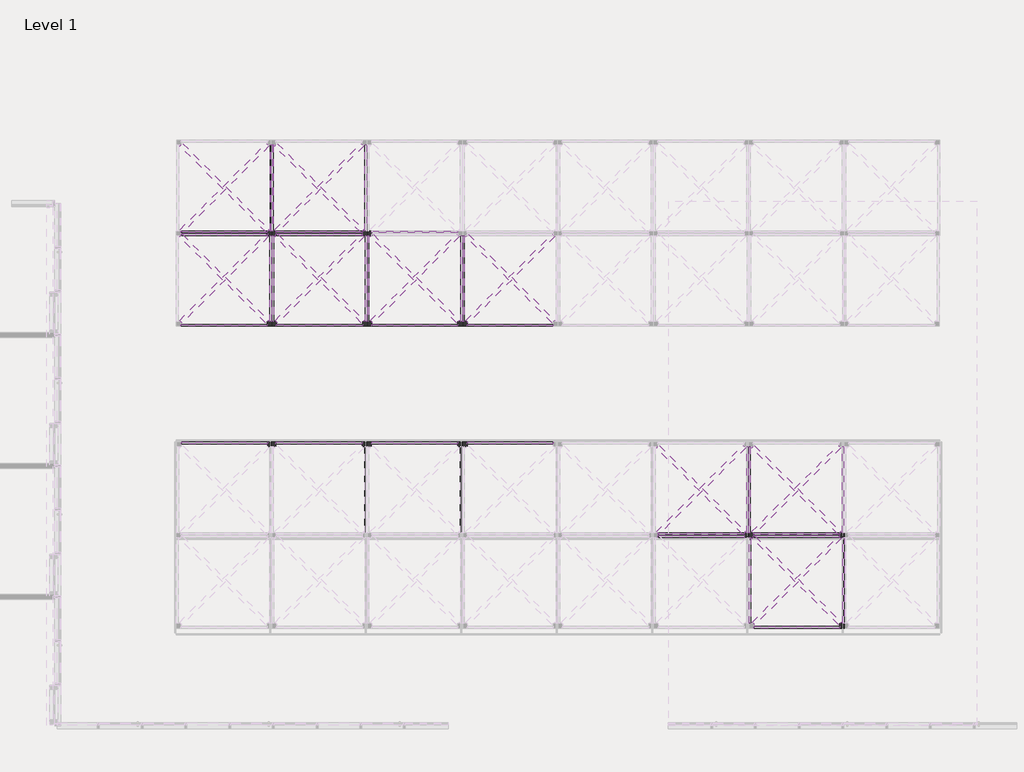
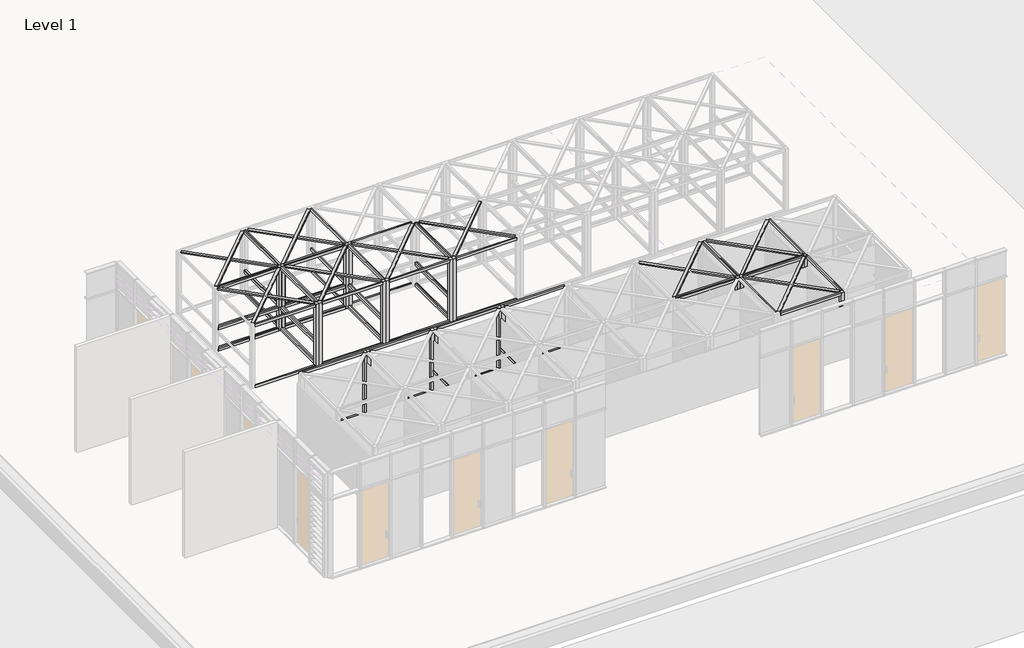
# One storey, part 19 of 32: 105 beams, 27 columns.
"""IFC4 building model written with IfcOpenShell, lengths in millimetres."""

from ifc_helpers import new_model, si_unit, origin, place, context, project, spatial, transform, mapped, element, save
from components import timber_gauged_nz_100_x_50_a05adcf6, timber_gauged_nz_100_x_50_e4b9d06e, timber_gauged_nz_100_x_50_66b63d81, timber_gauged_nz_100_x_50_718b6390, timber_gauged_nz_100_x_50_7774ab14, timber_gauged_nz_100_x_50_be6c7ca1, timber_gauged_nz_100_x_50_6be5a70a, timber_gauged_nz_100_x_50_7b7bee40, timber_gauged_nz_100_x_50_flat_212af973, timber_gauged_nz_100_x_50_flat_8016973c, column_timber_m_114x114_3b5997c2

model = new_model("IFC4")

# Units and contexts
model_context = context("Model", 3, world=origin())
ifc_project = project(units=[si_unit("LENGTHUNIT", "METRE", prefix="MILLI")], contexts=[model_context])

# Site, building, storey
site = spatial("IfcSite", under=ifc_project)
building = spatial("IfcBuilding", under=site)
storey = spatial("IfcBuildingStorey", under=building, Name="Level 1", Elevation=2800.0)

# Beams
placement = place(None, origin())
timber_gauged_nz_100_x_50_shape = timber_gauged_nz_100_x_50_a05adcf6(model_context)
element("IfcBeam", 1, ObjectType="Timber Gauged (NZ) : 100 x 50", at=placement, inside=storey, context=model_context, shape_type="MappedRepresentation", body=[
    mapped(timber_gauged_nz_100_x_50_shape, transform((-67595.3056755, -25111.9011548, 2847.0), x_axis=(1.0, 0.0, 0.0), y_axis=(0.0, 1.0, 0.0), z_axis=(0.0, 0.0, 1.0))),
])
element("IfcBeam", 2, ObjectType="Timber Gauged (NZ) : 100 x 50", at=placement, inside=storey, context=model_context, shape_type="MappedRepresentation", body=[
    mapped(timber_gauged_nz_100_x_50_shape, transform((-65190.9556755, -25111.9011548, 2847.0), x_axis=(1.0, 0.0, 0.0), y_axis=(0.0, 1.0, 0.0), z_axis=(0.0, 0.0, 1.0))),
])
element("IfcBeam", 3, ObjectType="Timber Gauged (NZ) : 100 x 50", at=placement, inside=storey, context=model_context, shape_type="MappedRepresentation", body=[
    mapped(timber_gauged_nz_100_x_50_shape, transform((-65204.0056755, -25182.1175809, 2847.0), x_axis=(-1.0, 0.0, 0.0), y_axis=(0.0, -1.0, 0.0), z_axis=(0.0, 0.0, 1.0))),
])
element("IfcBeam", 4, ObjectType="Timber Gauged (NZ) : 100 x 50", at=placement, inside=storey, context=model_context, shape_type="MappedRepresentation", body=[
    mapped(timber_gauged_nz_100_x_50_shape, transform((-67599.6556755, -25182.1175809, 2847.0), x_axis=(-1.0, 0.0, 0.0), y_axis=(0.0, -1.0, 0.0), z_axis=(0.0, 0.0, 1.0))),
])
element("IfcBeam", 5, ObjectType="Timber Gauged (NZ) : 100 x 50", at=placement, inside=storey, context=model_context, shape_type="MappedRepresentation", body=[
    mapped(timber_gauged_nz_100_x_50_shape, transform((-79599.6556755, -17511.9011548, 2847.0), x_axis=(1.0, 0.0, 0.0), y_axis=(0.0, 1.0, 0.0), z_axis=(0.0, 0.0, 1.0))),
])
element("IfcBeam", 6, ObjectType="Timber Gauged (NZ) : 100 x 50", at=placement, inside=storey, context=model_context, shape_type="MappedRepresentation", body=[
    mapped(timber_gauged_nz_100_x_50_shape, transform((-77195.3056755, -17511.9011548, 2847.0), x_axis=(1.0, 0.0, 0.0), y_axis=(0.0, 1.0, 0.0), z_axis=(0.0, 0.0, 1.0))),
])
element("IfcBeam", 7, ObjectType="Timber Gauged (NZ) : 100 x 50", at=placement, inside=storey, context=model_context, shape_type="MappedRepresentation", body=[
    mapped(timber_gauged_nz_100_x_50_shape, transform((-74799.6556755, -17511.9011548, 2847.0), x_axis=(1.0, 0.0, 0.0), y_axis=(0.0, 1.0, 0.0), z_axis=(0.0, 0.0, 1.0))),
])
element("IfcBeam", 8, ObjectType="Timber Gauged (NZ) : 100 x 50", at=placement, inside=storey, context=model_context, shape_type="MappedRepresentation", body=[
    mapped(timber_gauged_nz_100_x_50_shape, transform((-77208.3556755, -17582.1175809, 2847.0), x_axis=(-1.0, 0.0, 0.0), y_axis=(0.0, -1.0, 0.0), z_axis=(0.0, 0.0, 1.0))),
])
element("IfcBeam", 9, ObjectType="Timber Gauged (NZ) : 100 x 50", at=placement, inside=storey, context=model_context, shape_type="MappedRepresentation", body=[
    mapped(timber_gauged_nz_100_x_50_shape, transform((-79588.3556755, -17582.1175809, 2847.0), x_axis=(-1.0, 0.0, 0.0), y_axis=(0.0, -1.0, 0.0), z_axis=(0.0, 0.0, 1.0))),
])
timber_gauged_nz_100_x_50_2_shape = timber_gauged_nz_100_x_50_e4b9d06e(model_context)
element("IfcBeam", 10, ObjectType="Timber Gauged (NZ) : 100 x 50", at=placement, inside=storey, context=model_context, shape_type="MappedRepresentation", body=[
    mapped(timber_gauged_nz_100_x_50_2_shape, transform((-65204.1306755, -27464.9011548, 2847.0), x_axis=(1.0, 0.0, 0.0), y_axis=(0.0, 1.0, 0.0), z_axis=(0.0, 0.0, 1.0))),
])
element("IfcBeam", 11, ObjectType="Timber Gauged (NZ) : 100 x 50", at=placement, inside=storey, context=model_context, shape_type="MappedRepresentation", body=[
    mapped(timber_gauged_nz_100_x_50_2_shape, transform((-72386.4806755, -22829.1175809, 2847.0), x_axis=(-1.0, 0.0, 0.0), y_axis=(0.0, -1.0, 0.0), z_axis=(0.0, 0.0, 1.0))),
])
element("IfcBeam", 12, ObjectType="Timber Gauged (NZ) : 100 x 50", at=placement, inside=storey, context=model_context, shape_type="MappedRepresentation", body=[
    mapped(timber_gauged_nz_100_x_50_2_shape, transform((-74790.8306755, -22829.1175809, 2847.0), x_axis=(-1.0, 0.0, 0.0), y_axis=(0.0, -1.0, 0.0), z_axis=(0.0, 0.0, 1.0))),
])
element("IfcBeam", 13, ObjectType="Timber Gauged (NZ) : 100 x 50", at=placement, inside=storey, context=model_context, shape_type="MappedRepresentation", body=[
    mapped(timber_gauged_nz_100_x_50_2_shape, transform((-77195.1806755, -22829.1175809, 2847.0), x_axis=(-1.0, 0.0, 0.0), y_axis=(0.0, -1.0, 0.0), z_axis=(0.0, 0.0, 1.0))),
])
element("IfcBeam", 14, ObjectType="Timber Gauged (NZ) : 100 x 50", at=placement, inside=storey, context=model_context, shape_type="MappedRepresentation", body=[
    mapped(timber_gauged_nz_100_x_50_2_shape, transform((-79575.1806755, -22829.1175809, 2847.0), x_axis=(-1.0, 0.0, 0.0), y_axis=(0.0, -1.0, 0.0), z_axis=(0.0, 0.0, 1.0))),
])
element("IfcBeam", 15, ObjectType="Timber Gauged (NZ) : 100 x 50", at=placement, inside=storey, context=model_context, shape_type="MappedRepresentation", body=[
    mapped(timber_gauged_nz_100_x_50_2_shape, transform((-79612.8306755, -19864.9011548, 2847.0), x_axis=(1.0, 0.0, 0.0), y_axis=(0.0, 1.0, 0.0), z_axis=(0.0, 0.0, 1.0))),
])
element("IfcBeam", 16, ObjectType="Timber Gauged (NZ) : 100 x 50", at=placement, inside=storey, context=model_context, shape_type="MappedRepresentation", body=[
    mapped(timber_gauged_nz_100_x_50_2_shape, transform((-77208.4806755, -19864.9011548, 2847.0), x_axis=(1.0, 0.0, 0.0), y_axis=(0.0, 1.0, 0.0), z_axis=(0.0, 0.0, 1.0))),
])
element("IfcBeam", 17, ObjectType="Timber Gauged (NZ) : 100 x 50", at=placement, inside=storey, context=model_context, shape_type="MappedRepresentation", body=[
    mapped(timber_gauged_nz_100_x_50_2_shape, transform((-74812.8306755, -19864.9011548, 2847.0), x_axis=(1.0, 0.0, 0.0), y_axis=(0.0, 1.0, 0.0), z_axis=(0.0, 0.0, 1.0))),
])
element("IfcBeam", 18, ObjectType="Timber Gauged (NZ) : 100 x 50", at=placement, inside=storey, context=model_context, shape_type="MappedRepresentation", body=[
    mapped(timber_gauged_nz_100_x_50_2_shape, transform((-72412.8306755, -19864.9011548, 2847.0), x_axis=(1.0, 0.0, 0.0), y_axis=(0.0, 1.0, 0.0), z_axis=(0.0, 0.0, 1.0))),
])
timber_gauged_nz_100_x_50_3_shape = timber_gauged_nz_100_x_50_66b63d81(model_context)
element("IfcBeam", 19, ObjectType="Timber Gauged (NZ) : 100 x 50", at=placement, inside=storey, context=model_context, shape_type="MappedRepresentation", body=[
    mapped(timber_gauged_nz_100_x_50_3_shape, transform((-66367.4556755, -26288.4011548, 2847.0), x_axis=(0.0, -1.0, 0.0), y_axis=(1.0, 0.0, 0.0), z_axis=(0.0, 0.0, 1.0))),
])
element("IfcBeam", 20, ObjectType="Timber Gauged (NZ) : 100 x 50", at=placement, inside=storey, context=model_context, shape_type="MappedRepresentation", body=[
    mapped(timber_gauged_nz_100_x_50_3_shape, transform((-64027.5056755, -24005.6175809, 2847.0), x_axis=(0.0, 1.0, 0.0), y_axis=(-1.0, 0.0, 0.0), z_axis=(0.0, 0.0, 1.0))),
])
element("IfcBeam", 21, ObjectType="Timber Gauged (NZ) : 100 x 50", at=placement, inside=storey, context=model_context, shape_type="MappedRepresentation", body=[
    mapped(timber_gauged_nz_100_x_50_3_shape, transform((-66423.1556755, -24005.6175809, 2847.0), x_axis=(0.0, 1.0, 0.0), y_axis=(-1.0, 0.0, 0.0), z_axis=(0.0, 0.0, 1.0))),
])
element("IfcBeam", 22, ObjectType="Timber Gauged (NZ) : 100 x 50", at=placement, inside=storey, context=model_context, shape_type="MappedRepresentation", body=[
    mapped(timber_gauged_nz_100_x_50_3_shape, transform((-78371.8056755, -18688.4011548, 2847.0), x_axis=(0.0, -1.0, 0.0), y_axis=(1.0, 0.0, 0.0), z_axis=(0.0, 0.0, 1.0))),
])
element("IfcBeam", 23, ObjectType="Timber Gauged (NZ) : 100 x 50", at=placement, inside=storey, context=model_context, shape_type="MappedRepresentation", body=[
    mapped(timber_gauged_nz_100_x_50_3_shape, transform((-75976.1556755, -18688.4011548, 2847.0), x_axis=(0.0, -1.0, 0.0), y_axis=(1.0, 0.0, 0.0), z_axis=(0.0, 0.0, 1.0))),
])
element("IfcBeam", 24, ObjectType="Timber Gauged (NZ) : 100 x 50", at=placement, inside=storey, context=model_context, shape_type="MappedRepresentation", body=[
    mapped(timber_gauged_nz_100_x_50_3_shape, transform((-73576.1556755, -18688.4011548, 2847.0), x_axis=(0.0, -1.0, 0.0), y_axis=(1.0, 0.0, 0.0), z_axis=(0.0, 0.0, 1.0))),
])
element("IfcBeam", 25, ObjectType="Timber Gauged (NZ) : 100 x 50", at=placement, inside=storey, context=model_context, shape_type="MappedRepresentation", body=[
    mapped(timber_gauged_nz_100_x_50_3_shape, transform((-76031.8556755, -16405.6175809, 2847.0), x_axis=(0.0, 1.0, 0.0), y_axis=(-1.0, 0.0, 0.0), z_axis=(0.0, 0.0, 1.0))),
])
element("IfcBeam", 26, ObjectType="Timber Gauged (NZ) : 100 x 50", at=placement, inside=storey, context=model_context, shape_type="MappedRepresentation", body=[
    mapped(timber_gauged_nz_100_x_50_3_shape, transform((-78411.8556755, -16405.6175809, 2847.0), x_axis=(0.0, 1.0, 0.0), y_axis=(-1.0, 0.0, 0.0), z_axis=(0.0, 0.0, 1.0))),
])
element("IfcBeam", 27, ObjectType="Timber Gauged (NZ) : 100 x 50", at=placement, inside=storey, context=model_context, shape_type="MappedRepresentation", body=[
    mapped(timber_gauged_nz_100_x_50_3_shape, transform((-64014.4556755, -26288.4011548, 2847.0), x_axis=(0.0, -1.0, 0.0), y_axis=(1.0, 0.0, 0.0), z_axis=(0.0, 0.0, 1.0))),
])
element("IfcBeam", 28, ObjectType="Timber Gauged (NZ) : 100 x 50", at=placement, inside=storey, context=model_context, shape_type="MappedRepresentation", body=[
    mapped(timber_gauged_nz_100_x_50_3_shape, transform((-66380.5056755, -24005.6175809, 2847.0), x_axis=(0.0, 1.0, 0.0), y_axis=(-1.0, 0.0, 0.0), z_axis=(0.0, 0.0, 1.0))),
])
element("IfcBeam", 29, ObjectType="Timber Gauged (NZ) : 100 x 50", at=placement, inside=storey, context=model_context, shape_type="MappedRepresentation", body=[
    mapped(timber_gauged_nz_100_x_50_3_shape, transform((-78423.1556755, -18688.4011548, 2847.0), x_axis=(0.0, -1.0, 0.0), y_axis=(1.0, 0.0, 0.0), z_axis=(0.0, 0.0, 1.0))),
])
element("IfcBeam", 30, ObjectType="Timber Gauged (NZ) : 100 x 50", at=placement, inside=storey, context=model_context, shape_type="MappedRepresentation", body=[
    mapped(timber_gauged_nz_100_x_50_3_shape, transform((-76018.8056755, -18688.4011548, 2847.0), x_axis=(0.0, -1.0, 0.0), y_axis=(1.0, 0.0, 0.0), z_axis=(0.0, 0.0, 1.0))),
])
element("IfcBeam", 31, ObjectType="Timber Gauged (NZ) : 100 x 50", at=placement, inside=storey, context=model_context, shape_type="MappedRepresentation", body=[
    mapped(timber_gauged_nz_100_x_50_3_shape, transform((-73623.1556755, -18688.4011548, 2847.0), x_axis=(0.0, -1.0, 0.0), y_axis=(1.0, 0.0, 0.0), z_axis=(0.0, 0.0, 1.0))),
])
element("IfcBeam", 32, ObjectType="Timber Gauged (NZ) : 100 x 50", at=placement, inside=storey, context=model_context, shape_type="MappedRepresentation", body=[
    mapped(timber_gauged_nz_100_x_50_3_shape, transform((-78384.8556755, -16405.6175809, 2847.0), x_axis=(0.0, 1.0, 0.0), y_axis=(-1.0, 0.0, 0.0), z_axis=(0.0, 0.0, 1.0))),
])
timber_gauged_nz_100_x_50_4_shape = timber_gauged_nz_100_x_50_718b6390(model_context)
element("IfcBeam", 33, ObjectType="Timber Gauged (NZ) : 100 x 50", at=placement, inside=storey, context=model_context, shape_type="MappedRepresentation", body=[
    mapped(timber_gauged_nz_100_x_50_4_shape, transform((-67603.1556755, -25111.9011548, 5153.0), x_axis=(1.0, 0.0, 0.0), y_axis=(0.0, 1.0, 0.0), z_axis=(0.0, 0.0, 1.0))),
])
element("IfcBeam", 34, ObjectType="Timber Gauged (NZ) : 100 x 50", at=placement, inside=storey, context=model_context, shape_type="MappedRepresentation", body=[
    mapped(timber_gauged_nz_100_x_50_4_shape, transform((-67603.1556755, -25111.9011548, 3653.0), x_axis=(1.0, 0.0, 0.0), y_axis=(0.0, 1.0, 0.0), z_axis=(0.0, 0.0, 1.0))),
])
element("IfcBeam", 35, ObjectType="Timber Gauged (NZ) : 100 x 50", at=placement, inside=storey, context=model_context, shape_type="MappedRepresentation", body=[
    mapped(timber_gauged_nz_100_x_50_4_shape, transform((-65198.8056755, -25111.9011548, 5153.0), x_axis=(1.0, 0.0, 0.0), y_axis=(0.0, 1.0, 0.0), z_axis=(0.0, 0.0, 1.0))),
])
element("IfcBeam", 36, ObjectType="Timber Gauged (NZ) : 100 x 50", at=placement, inside=storey, context=model_context, shape_type="MappedRepresentation", body=[
    mapped(timber_gauged_nz_100_x_50_4_shape, transform((-65198.8056755, -25111.9011548, 3653.0), x_axis=(1.0, 0.0, 0.0), y_axis=(0.0, 1.0, 0.0), z_axis=(0.0, 0.0, 1.0))),
])
element("IfcBeam", 37, ObjectType="Timber Gauged (NZ) : 100 x 50", at=placement, inside=storey, context=model_context, shape_type="MappedRepresentation", body=[
    mapped(timber_gauged_nz_100_x_50_4_shape, transform((-65196.1556755, -25182.1175809, 5153.0), x_axis=(-1.0, 0.0, 0.0), y_axis=(0.0, -1.0, 0.0), z_axis=(0.0, 0.0, 1.0))),
])
element("IfcBeam", 38, ObjectType="Timber Gauged (NZ) : 100 x 50", at=placement, inside=storey, context=model_context, shape_type="MappedRepresentation", body=[
    mapped(timber_gauged_nz_100_x_50_4_shape, transform((-65196.1556755, -25182.1175809, 3653.0), x_axis=(-1.0, 0.0, 0.0), y_axis=(0.0, -1.0, 0.0), z_axis=(0.0, 0.0, 1.0))),
])
element("IfcBeam", 39, ObjectType="Timber Gauged (NZ) : 100 x 50", at=placement, inside=storey, context=model_context, shape_type="MappedRepresentation", body=[
    mapped(timber_gauged_nz_100_x_50_4_shape, transform((-67591.8056755, -25182.1175809, 5153.0), x_axis=(-1.0, 0.0, 0.0), y_axis=(0.0, -1.0, 0.0), z_axis=(0.0, 0.0, 1.0))),
])
element("IfcBeam", 40, ObjectType="Timber Gauged (NZ) : 100 x 50", at=placement, inside=storey, context=model_context, shape_type="MappedRepresentation", body=[
    mapped(timber_gauged_nz_100_x_50_4_shape, transform((-67591.8056755, -25182.1175809, 3653.0), x_axis=(-1.0, 0.0, 0.0), y_axis=(0.0, -1.0, 0.0), z_axis=(0.0, 0.0, 1.0))),
])
element("IfcBeam", 41, ObjectType="Timber Gauged (NZ) : 100 x 50", at=placement, inside=storey, context=model_context, shape_type="MappedRepresentation", body=[
    mapped(timber_gauged_nz_100_x_50_4_shape, transform((-79607.5056755, -17511.9011548, 5153.0), x_axis=(1.0, 0.0, 0.0), y_axis=(0.0, 1.0, 0.0), z_axis=(0.0, 0.0, 1.0))),
])
element("IfcBeam", 42, ObjectType="Timber Gauged (NZ) : 100 x 50", at=placement, inside=storey, context=model_context, shape_type="MappedRepresentation", body=[
    mapped(timber_gauged_nz_100_x_50_4_shape, transform((-79607.5056755, -17511.9011548, 3653.0), x_axis=(1.0, 0.0, 0.0), y_axis=(0.0, 1.0, 0.0), z_axis=(0.0, 0.0, 1.0))),
])
element("IfcBeam", 43, ObjectType="Timber Gauged (NZ) : 100 x 50", at=placement, inside=storey, context=model_context, shape_type="MappedRepresentation", body=[
    mapped(timber_gauged_nz_100_x_50_4_shape, transform((-77203.1556755, -17511.9011548, 5153.0), x_axis=(1.0, 0.0, 0.0), y_axis=(0.0, 1.0, 0.0), z_axis=(0.0, 0.0, 1.0))),
])
element("IfcBeam", 44, ObjectType="Timber Gauged (NZ) : 100 x 50", at=placement, inside=storey, context=model_context, shape_type="MappedRepresentation", body=[
    mapped(timber_gauged_nz_100_x_50_4_shape, transform((-77203.1556755, -17511.9011548, 3653.0), x_axis=(1.0, 0.0, 0.0), y_axis=(0.0, 1.0, 0.0), z_axis=(0.0, 0.0, 1.0))),
])
element("IfcBeam", 45, ObjectType="Timber Gauged (NZ) : 100 x 50", at=placement, inside=storey, context=model_context, shape_type="MappedRepresentation", body=[
    mapped(timber_gauged_nz_100_x_50_4_shape, transform((-74807.5056755, -17511.9011548, 5153.0), x_axis=(1.0, 0.0, 0.0), y_axis=(0.0, 1.0, 0.0), z_axis=(0.0, 0.0, 1.0))),
])
element("IfcBeam", 46, ObjectType="Timber Gauged (NZ) : 100 x 50", at=placement, inside=storey, context=model_context, shape_type="MappedRepresentation", body=[
    mapped(timber_gauged_nz_100_x_50_4_shape, transform((-77200.5056755, -17582.1175809, 5153.0), x_axis=(-1.0, 0.0, 0.0), y_axis=(0.0, -1.0, 0.0), z_axis=(0.0, 0.0, 1.0))),
])
element("IfcBeam", 47, ObjectType="Timber Gauged (NZ) : 100 x 50", at=placement, inside=storey, context=model_context, shape_type="MappedRepresentation", body=[
    mapped(timber_gauged_nz_100_x_50_4_shape, transform((-77200.5056755, -17582.1175809, 3653.0), x_axis=(-1.0, 0.0, 0.0), y_axis=(0.0, -1.0, 0.0), z_axis=(0.0, 0.0, 1.0))),
])
element("IfcBeam", 48, ObjectType="Timber Gauged (NZ) : 100 x 50", at=placement, inside=storey, context=model_context, shape_type="MappedRepresentation", body=[
    mapped(timber_gauged_nz_100_x_50_4_shape, transform((-79580.5056755, -17582.1175809, 5153.0), x_axis=(-1.0, 0.0, 0.0), y_axis=(0.0, -1.0, 0.0), z_axis=(0.0, 0.0, 1.0))),
])
element("IfcBeam", 49, ObjectType="Timber Gauged (NZ) : 100 x 50", at=placement, inside=storey, context=model_context, shape_type="MappedRepresentation", body=[
    mapped(timber_gauged_nz_100_x_50_4_shape, transform((-79580.5056755, -17582.1175809, 3653.0), x_axis=(-1.0, 0.0, 0.0), y_axis=(0.0, -1.0, 0.0), z_axis=(0.0, 0.0, 1.0))),
])
timber_gauged_nz_100_x_50_5_shape = timber_gauged_nz_100_x_50_7774ab14(model_context)
element("IfcBeam", 50, ObjectType="Timber Gauged (NZ) : 100 x 50", at=placement, inside=storey, context=model_context, shape_type="MappedRepresentation", body=[
    mapped(timber_gauged_nz_100_x_50_5_shape, transform((-65186.3056755, -27464.9011548, 5153.0), x_axis=(1.0, 0.0, 0.0), y_axis=(0.0, 1.0, 0.0), z_axis=(0.0, 0.0, 1.0))),
])
element("IfcBeam", 51, ObjectType="Timber Gauged (NZ) : 100 x 50", at=placement, inside=storey, context=model_context, shape_type="MappedRepresentation", body=[
    mapped(timber_gauged_nz_100_x_50_5_shape, transform((-72404.3056755, -22829.1175809, 5153.0), x_axis=(-1.0, 0.0, 0.0), y_axis=(0.0, -1.0, 0.0), z_axis=(0.0, 0.0, 1.0))),
])
element("IfcBeam", 52, ObjectType="Timber Gauged (NZ) : 100 x 50", at=placement, inside=storey, context=model_context, shape_type="MappedRepresentation", body=[
    mapped(timber_gauged_nz_100_x_50_5_shape, transform((-74808.6556755, -22829.1175809, 5153.0), x_axis=(-1.0, 0.0, 0.0), y_axis=(0.0, -1.0, 0.0), z_axis=(0.0, 0.0, 1.0))),
])
element("IfcBeam", 53, ObjectType="Timber Gauged (NZ) : 100 x 50", at=placement, inside=storey, context=model_context, shape_type="MappedRepresentation", body=[
    mapped(timber_gauged_nz_100_x_50_5_shape, transform((-77213.0056755, -22829.1175809, 5153.0), x_axis=(-1.0, 0.0, 0.0), y_axis=(0.0, -1.0, 0.0), z_axis=(0.0, 0.0, 1.0))),
])
element("IfcBeam", 54, ObjectType="Timber Gauged (NZ) : 100 x 50", at=placement, inside=storey, context=model_context, shape_type="MappedRepresentation", body=[
    mapped(timber_gauged_nz_100_x_50_5_shape, transform((-79593.0056755, -22829.1175809, 5153.0), x_axis=(-1.0, 0.0, 0.0), y_axis=(0.0, -1.0, 0.0), z_axis=(0.0, 0.0, 1.0))),
])
element("IfcBeam", 55, ObjectType="Timber Gauged (NZ) : 100 x 50", at=placement, inside=storey, context=model_context, shape_type="MappedRepresentation", body=[
    mapped(timber_gauged_nz_100_x_50_5_shape, transform((-79595.0056755, -19864.9011548, 5153.0), x_axis=(1.0, 0.0, 0.0), y_axis=(0.0, 1.0, 0.0), z_axis=(0.0, 0.0, 1.0))),
])
element("IfcBeam", 56, ObjectType="Timber Gauged (NZ) : 100 x 50", at=placement, inside=storey, context=model_context, shape_type="MappedRepresentation", body=[
    mapped(timber_gauged_nz_100_x_50_5_shape, transform((-77190.6556755, -19864.9011548, 5153.0), x_axis=(1.0, 0.0, 0.0), y_axis=(0.0, 1.0, 0.0), z_axis=(0.0, 0.0, 1.0))),
])
element("IfcBeam", 57, ObjectType="Timber Gauged (NZ) : 100 x 50", at=placement, inside=storey, context=model_context, shape_type="MappedRepresentation", body=[
    mapped(timber_gauged_nz_100_x_50_5_shape, transform((-74795.0056755, -19864.9011548, 5153.0), x_axis=(1.0, 0.0, 0.0), y_axis=(0.0, 1.0, 0.0), z_axis=(0.0, 0.0, 1.0))),
])
element("IfcBeam", 58, ObjectType="Timber Gauged (NZ) : 100 x 50", at=placement, inside=storey, context=model_context, shape_type="MappedRepresentation", body=[
    mapped(timber_gauged_nz_100_x_50_5_shape, transform((-72395.0056755, -19864.9011548, 5153.0), x_axis=(1.0, 0.0, 0.0), y_axis=(0.0, 1.0, 0.0), z_axis=(0.0, 0.0, 1.0))),
])
timber_gauged_nz_100_x_50_6_shape = timber_gauged_nz_100_x_50_be6c7ca1(model_context)
element("IfcBeam", 59, ObjectType="Timber Gauged (NZ) : 100 x 50", at=placement, inside=storey, context=model_context, shape_type="MappedRepresentation", body=[
    mapped(timber_gauged_nz_100_x_50_6_shape, transform((-66367.4556755, -26219.9011548, 5153.0), x_axis=(0.0, -1.0, 0.0), y_axis=(1.0, 0.0, 0.0), z_axis=(0.0, 0.0, 1.0))),
])
element("IfcBeam", 60, ObjectType="Timber Gauged (NZ) : 100 x 50", at=placement, inside=storey, context=model_context, shape_type="MappedRepresentation", body=[
    mapped(timber_gauged_nz_100_x_50_6_shape, transform((-64027.5056755, -24074.1175809, 5153.0), x_axis=(0.0, 1.0, 0.0), y_axis=(-1.0, 0.0, 0.0), z_axis=(0.0, 0.0, 1.0))),
])
element("IfcBeam", 61, ObjectType="Timber Gauged (NZ) : 100 x 50", at=placement, inside=storey, context=model_context, shape_type="MappedRepresentation", body=[
    mapped(timber_gauged_nz_100_x_50_6_shape, transform((-66423.1556755, -24074.1175809, 5153.0), x_axis=(0.0, 1.0, 0.0), y_axis=(-1.0, 0.0, 0.0), z_axis=(0.0, 0.0, 1.0))),
])
element("IfcBeam", 62, ObjectType="Timber Gauged (NZ) : 100 x 50", at=placement, inside=storey, context=model_context, shape_type="MappedRepresentation", body=[
    mapped(timber_gauged_nz_100_x_50_6_shape, transform((-78371.8056755, -18619.9011548, 5153.0), x_axis=(0.0, -1.0, 0.0), y_axis=(1.0, 0.0, 0.0), z_axis=(0.0, 0.0, 1.0))),
])
element("IfcBeam", 63, ObjectType="Timber Gauged (NZ) : 100 x 50", at=placement, inside=storey, context=model_context, shape_type="MappedRepresentation", body=[
    mapped(timber_gauged_nz_100_x_50_6_shape, transform((-75976.1556755, -18619.9011548, 5153.0), x_axis=(0.0, -1.0, 0.0), y_axis=(1.0, 0.0, 0.0), z_axis=(0.0, 0.0, 1.0))),
])
element("IfcBeam", 64, ObjectType="Timber Gauged (NZ) : 100 x 50", at=placement, inside=storey, context=model_context, shape_type="MappedRepresentation", body=[
    mapped(timber_gauged_nz_100_x_50_6_shape, transform((-73576.1556755, -18619.9011548, 5153.0), x_axis=(0.0, -1.0, 0.0), y_axis=(1.0, 0.0, 0.0), z_axis=(0.0, 0.0, 1.0))),
])
element("IfcBeam", 65, ObjectType="Timber Gauged (NZ) : 100 x 50", at=placement, inside=storey, context=model_context, shape_type="MappedRepresentation", body=[
    mapped(timber_gauged_nz_100_x_50_6_shape, transform((-76031.8556755, -16474.1175809, 5153.0), x_axis=(0.0, 1.0, 0.0), y_axis=(-1.0, 0.0, 0.0), z_axis=(0.0, 0.0, 1.0))),
])
element("IfcBeam", 66, ObjectType="Timber Gauged (NZ) : 100 x 50", at=placement, inside=storey, context=model_context, shape_type="MappedRepresentation", body=[
    mapped(timber_gauged_nz_100_x_50_6_shape, transform((-78411.8556755, -16474.1175809, 5153.0), x_axis=(0.0, 1.0, 0.0), y_axis=(-1.0, 0.0, 0.0), z_axis=(0.0, 0.0, 1.0))),
])
timber_gauged_nz_100_x_50_7_shape = timber_gauged_nz_100_x_50_6be5a70a(model_context)
element("IfcBeam", 67, ObjectType="Timber Gauged (NZ) : 100 x 50", at=placement, inside=storey, context=model_context, shape_type="MappedRepresentation", body=[
    mapped(timber_gauged_nz_100_x_50_7_shape, transform((-64014.4556755, -26264.9011548, 5153.0), x_axis=(0.0, -1.0, 0.0), y_axis=(1.0, 0.0, 0.0), z_axis=(0.0, 0.0, 1.0))),
])
element("IfcBeam", 68, ObjectType="Timber Gauged (NZ) : 100 x 50", at=placement, inside=storey, context=model_context, shape_type="MappedRepresentation", body=[
    mapped(timber_gauged_nz_100_x_50_7_shape, transform((-66380.5056755, -24029.1175809, 5153.0), x_axis=(0.0, 1.0, 0.0), y_axis=(-1.0, 0.0, 0.0), z_axis=(0.0, 0.0, 1.0))),
])
element("IfcBeam", 69, ObjectType="Timber Gauged (NZ) : 100 x 50", at=placement, inside=storey, context=model_context, shape_type="MappedRepresentation", body=[
    mapped(timber_gauged_nz_100_x_50_7_shape, transform((-78423.1556755, -18664.9011548, 5153.0), x_axis=(0.0, -1.0, 0.0), y_axis=(1.0, 0.0, 0.0), z_axis=(0.0, 0.0, 1.0))),
])
element("IfcBeam", 70, ObjectType="Timber Gauged (NZ) : 100 x 50", at=placement, inside=storey, context=model_context, shape_type="MappedRepresentation", body=[
    mapped(timber_gauged_nz_100_x_50_7_shape, transform((-76018.8056755, -18664.9011548, 5153.0), x_axis=(0.0, -1.0, 0.0), y_axis=(1.0, 0.0, 0.0), z_axis=(0.0, 0.0, 1.0))),
])
element("IfcBeam", 71, ObjectType="Timber Gauged (NZ) : 100 x 50", at=placement, inside=storey, context=model_context, shape_type="MappedRepresentation", body=[
    mapped(timber_gauged_nz_100_x_50_7_shape, transform((-73623.1556755, -18664.9011548, 5153.0), x_axis=(0.0, -1.0, 0.0), y_axis=(1.0, 0.0, 0.0), z_axis=(0.0, 0.0, 1.0))),
])
element("IfcBeam", 72, ObjectType="Timber Gauged (NZ) : 100 x 50", at=placement, inside=storey, context=model_context, shape_type="MappedRepresentation", body=[
    mapped(timber_gauged_nz_100_x_50_7_shape, transform((-78384.8556755, -16429.1175809, 5153.0), x_axis=(0.0, 1.0, 0.0), y_axis=(-1.0, 0.0, 0.0), z_axis=(0.0, 0.0, 1.0))),
])
timber_gauged_nz_100_x_50_8_shape = timber_gauged_nz_100_x_50_7b7bee40(model_context)
element("IfcBeam", 73, ObjectType="Timber Gauged (NZ) : 100 x 50", at=placement, inside=storey, context=model_context, shape_type="MappedRepresentation", body=[
    mapped(timber_gauged_nz_100_x_50_8_shape, transform((-66367.4556755, -26344.9011548, 3653.0), x_axis=(0.0, -1.0, 0.0), y_axis=(1.0, 0.0, 0.0), z_axis=(0.0, 0.0, 1.0))),
])
element("IfcBeam", 74, ObjectType="Timber Gauged (NZ) : 100 x 50", at=placement, inside=storey, context=model_context, shape_type="MappedRepresentation", body=[
    mapped(timber_gauged_nz_100_x_50_8_shape, transform((-73627.5056755, -23949.1175809, 3653.0), x_axis=(0.0, 1.0, 0.0), y_axis=(-1.0, 0.0, 0.0), z_axis=(0.0, 0.0, 1.0))),
])
element("IfcBeam", 75, ObjectType="Timber Gauged (NZ) : 100 x 50", at=placement, inside=storey, context=model_context, shape_type="MappedRepresentation", body=[
    mapped(timber_gauged_nz_100_x_50_8_shape, transform((-76031.8556755, -23949.1175809, 3653.0), x_axis=(0.0, 1.0, 0.0), y_axis=(-1.0, 0.0, 0.0), z_axis=(0.0, 0.0, 1.0))),
])
element("IfcBeam", 76, ObjectType="Timber Gauged (NZ) : 100 x 50", at=placement, inside=storey, context=model_context, shape_type="MappedRepresentation", body=[
    mapped(timber_gauged_nz_100_x_50_8_shape, transform((-78411.8556755, -23949.1175809, 3653.0), x_axis=(0.0, 1.0, 0.0), y_axis=(-1.0, 0.0, 0.0), z_axis=(0.0, 0.0, 1.0))),
])
element("IfcBeam", 77, ObjectType="Timber Gauged (NZ) : 100 x 50", at=placement, inside=storey, context=model_context, shape_type="MappedRepresentation", body=[
    mapped(timber_gauged_nz_100_x_50_8_shape, transform((-78371.8056755, -18744.9011548, 3653.0), x_axis=(0.0, -1.0, 0.0), y_axis=(1.0, 0.0, 0.0), z_axis=(0.0, 0.0, 1.0))),
])
element("IfcBeam", 78, ObjectType="Timber Gauged (NZ) : 100 x 50", at=placement, inside=storey, context=model_context, shape_type="MappedRepresentation", body=[
    mapped(timber_gauged_nz_100_x_50_8_shape, transform((-75976.1556755, -18744.9011548, 3653.0), x_axis=(0.0, -1.0, 0.0), y_axis=(1.0, 0.0, 0.0), z_axis=(0.0, 0.0, 1.0))),
])
element("IfcBeam", 79, ObjectType="Timber Gauged (NZ) : 100 x 50", at=placement, inside=storey, context=model_context, shape_type="MappedRepresentation", body=[
    mapped(timber_gauged_nz_100_x_50_8_shape, transform((-73576.1556755, -18744.9011548, 3653.0), x_axis=(0.0, -1.0, 0.0), y_axis=(1.0, 0.0, 0.0), z_axis=(0.0, 0.0, 1.0))),
])
element("IfcBeam", 80, ObjectType="Timber Gauged (NZ) : 100 x 50", at=placement, inside=storey, context=model_context, shape_type="MappedRepresentation", body=[
    mapped(timber_gauged_nz_100_x_50_8_shape, transform((-76031.8556755, -16349.1175809, 3653.0), x_axis=(0.0, 1.0, 0.0), y_axis=(-1.0, 0.0, 0.0), z_axis=(0.0, 0.0, 1.0))),
])
element("IfcBeam", 81, ObjectType="Timber Gauged (NZ) : 100 x 50", at=placement, inside=storey, context=model_context, shape_type="MappedRepresentation", body=[
    mapped(timber_gauged_nz_100_x_50_8_shape, transform((-78411.8556755, -16349.1175809, 3653.0), x_axis=(0.0, 1.0, 0.0), y_axis=(-1.0, 0.0, 0.0), z_axis=(0.0, 0.0, 1.0))),
])
element("IfcBeam", 82, ObjectType="Timber Gauged (NZ) : 100 x 50", at=placement, inside=storey, context=model_context, shape_type="MappedRepresentation", body=[
    mapped(timber_gauged_nz_100_x_50_7_shape, transform((-64014.4556755, -26264.7011548, 3653.0), x_axis=(0.0, -1.0, 0.0), y_axis=(1.0, 0.0, 0.0), z_axis=(0.0, 0.0, 1.0))),
])
element("IfcBeam", 83, ObjectType="Timber Gauged (NZ) : 100 x 50", at=placement, inside=storey, context=model_context, shape_type="MappedRepresentation", body=[
    mapped(timber_gauged_nz_100_x_50_7_shape, transform((-66380.5056755, -24029.3175809, 3653.0), x_axis=(0.0, 1.0, 0.0), y_axis=(-1.0, 0.0, 0.0), z_axis=(0.0, 0.0, 1.0))),
])
element("IfcBeam", 84, ObjectType="Timber Gauged (NZ) : 100 x 50", at=placement, inside=storey, context=model_context, shape_type="MappedRepresentation", body=[
    mapped(timber_gauged_nz_100_x_50_7_shape, transform((-78423.1556755, -18664.7011548, 3653.0), x_axis=(0.0, -1.0, 0.0), y_axis=(1.0, 0.0, 0.0), z_axis=(0.0, 0.0, 1.0))),
])
element("IfcBeam", 85, ObjectType="Timber Gauged (NZ) : 100 x 50", at=placement, inside=storey, context=model_context, shape_type="MappedRepresentation", body=[
    mapped(timber_gauged_nz_100_x_50_7_shape, transform((-76018.8056755, -18664.7011548, 3653.0), x_axis=(0.0, -1.0, 0.0), y_axis=(1.0, 0.0, 0.0), z_axis=(0.0, 0.0, 1.0))),
])
element("IfcBeam", 86, ObjectType="Timber Gauged (NZ) : 100 x 50", at=placement, inside=storey, context=model_context, shape_type="MappedRepresentation", body=[
    mapped(timber_gauged_nz_100_x_50_7_shape, transform((-73623.1556755, -18664.7011548, 3653.0), x_axis=(0.0, -1.0, 0.0), y_axis=(1.0, 0.0, 0.0), z_axis=(0.0, 0.0, 1.0))),
])
element("IfcBeam", 87, ObjectType="Timber Gauged (NZ) : 100 x 50", at=placement, inside=storey, context=model_context, shape_type="MappedRepresentation", body=[
    mapped(timber_gauged_nz_100_x_50_7_shape, transform((-78384.8556755, -16429.3175809, 3653.0), x_axis=(0.0, 1.0, 0.0), y_axis=(-1.0, 0.0, 0.0), z_axis=(0.0, 0.0, 1.0))),
])
timber_gauged_nz_100_x_50_flat_shape = timber_gauged_nz_100_x_50_flat_212af973(model_context)
element("IfcBeam", 88, ObjectType="Timber Gauged (NZ) : 100 x 50 Flat", at=placement, inside=storey, context=model_context, shape_type="MappedRepresentation", body=[
    mapped(timber_gauged_nz_100_x_50_flat_shape, transform((-65186.7150144, -26283.5138698, 5176.5), x_axis=(0.707106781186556, 0.7071067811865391, 0.0), y_axis=(-0.7071067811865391, 0.707106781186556, 0.0), z_axis=(0.0, 0.0, 1.0))),
])
element("IfcBeam", 89, ObjectType="Timber Gauged (NZ) : 100 x 50 Flat", at=placement, inside=storey, context=model_context, shape_type="MappedRepresentation", body=[
    mapped(timber_gauged_nz_100_x_50_flat_shape, transform((-65208.2463365, -24010.5048659, 5176.5), x_axis=(-0.7071067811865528, -0.7071067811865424, 0.0), y_axis=(0.7071067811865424, -0.7071067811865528, 0.0), z_axis=(0.0, 0.0, 1.0))),
])
element("IfcBeam", 90, ObjectType="Timber Gauged (NZ) : 100 x 50 Flat", at=placement, inside=storey, context=model_context, shape_type="MappedRepresentation", body=[
    mapped(timber_gauged_nz_100_x_50_flat_shape, transform((-67603.8963365, -24010.5048659, 5176.5), x_axis=(-0.7071067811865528, -0.7071067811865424, 0.0), y_axis=(0.7071067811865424, -0.7071067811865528, 0.0), z_axis=(0.0, 0.0, 1.0))),
])
element("IfcBeam", 91, ObjectType="Timber Gauged (NZ) : 100 x 50 Flat", at=placement, inside=storey, context=model_context, shape_type="MappedRepresentation", body=[
    mapped(timber_gauged_nz_100_x_50_flat_shape, transform((-79595.4150144, -18683.5138698, 5176.5), x_axis=(0.707106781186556, 0.7071067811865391, 0.0), y_axis=(-0.7071067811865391, 0.707106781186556, 0.0), z_axis=(0.0, 0.0, 1.0))),
])
element("IfcBeam", 92, ObjectType="Timber Gauged (NZ) : 100 x 50 Flat", at=placement, inside=storey, context=model_context, shape_type="MappedRepresentation", body=[
    mapped(timber_gauged_nz_100_x_50_flat_shape, transform((-77191.0650144, -18683.5138698, 5176.5), x_axis=(0.707106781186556, 0.7071067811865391, 0.0), y_axis=(-0.7071067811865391, 0.707106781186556, 0.0), z_axis=(0.0, 0.0, 1.0))),
])
element("IfcBeam", 93, ObjectType="Timber Gauged (NZ) : 100 x 50 Flat", at=placement, inside=storey, context=model_context, shape_type="MappedRepresentation", body=[
    mapped(timber_gauged_nz_100_x_50_flat_shape, transform((-74795.4150144, -18683.5138698, 5176.5), x_axis=(0.707106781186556, 0.7071067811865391, 0.0), y_axis=(-0.7071067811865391, 0.707106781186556, 0.0), z_axis=(0.0, 0.0, 1.0))),
])
element("IfcBeam", 94, ObjectType="Timber Gauged (NZ) : 100 x 50 Flat", at=placement, inside=storey, context=model_context, shape_type="MappedRepresentation", body=[
    mapped(timber_gauged_nz_100_x_50_flat_shape, transform((-72395.4150144, -18683.5138698, 5176.5), x_axis=(0.707106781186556, 0.7071067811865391, 0.0), y_axis=(-0.7071067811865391, 0.707106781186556, 0.0), z_axis=(0.0, 0.0, 1.0))),
])
element("IfcBeam", 95, ObjectType="Timber Gauged (NZ) : 100 x 50 Flat", at=placement, inside=storey, context=model_context, shape_type="MappedRepresentation", body=[
    mapped(timber_gauged_nz_100_x_50_flat_shape, transform((-77212.5963365, -16410.5048659, 5176.5), x_axis=(-0.7071067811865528, -0.7071067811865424, 0.0), y_axis=(0.7071067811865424, -0.7071067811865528, 0.0), z_axis=(0.0, 0.0, 1.0))),
])
element("IfcBeam", 96, ObjectType="Timber Gauged (NZ) : 100 x 50 Flat", at=placement, inside=storey, context=model_context, shape_type="MappedRepresentation", body=[
    mapped(timber_gauged_nz_100_x_50_flat_shape, transform((-79592.5963365, -16410.5048659, 5176.5), x_axis=(-0.7071067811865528, -0.7071067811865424, 0.0), y_axis=(0.7071067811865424, -0.7071067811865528, 0.0), z_axis=(0.0, 0.0, 1.0))),
])
timber_gauged_nz_100_x_50_flat_2_shape = timber_gauged_nz_100_x_50_flat_8016973c(model_context)
element("IfcBeam", 97, ObjectType="Timber Gauged (NZ) : 100 x 50 Flat", at=placement, inside=storey, context=model_context, shape_type="MappedRepresentation", body=[
    mapped(timber_gauged_nz_100_x_50_flat_2_shape, transform((-65240.4551298, -26238.2590359, 5176.5), x_axis=(0.7071067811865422, -0.7071067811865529, 0.0), y_axis=(0.7071067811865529, 0.7071067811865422, 0.0), z_axis=(0.0, 0.0, 1.0))),
])
element("IfcBeam", 98, ObjectType="Timber Gauged (NZ) : 100 x 50 Flat", at=placement, inside=storey, context=model_context, shape_type="MappedRepresentation", body=[
    mapped(timber_gauged_nz_100_x_50_flat_2_shape, transform((-65154.5062211, -24055.7596999, 5176.5), x_axis=(-0.7071067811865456, 0.7071067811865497, 0.0), y_axis=(-0.7071067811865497, -0.7071067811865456, 0.0), z_axis=(0.0, 0.0, 1.0))),
])
element("IfcBeam", 99, ObjectType="Timber Gauged (NZ) : 100 x 50 Flat", at=placement, inside=storey, context=model_context, shape_type="MappedRepresentation", body=[
    mapped(timber_gauged_nz_100_x_50_flat_2_shape, transform((-67550.1562211, -24055.7596999, 5176.5), x_axis=(-0.7071067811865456, 0.7071067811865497, 0.0), y_axis=(-0.7071067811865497, -0.7071067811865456, 0.0), z_axis=(0.0, 0.0, 1.0))),
])
element("IfcBeam", 100, ObjectType="Timber Gauged (NZ) : 100 x 50 Flat", at=placement, inside=storey, context=model_context, shape_type="MappedRepresentation", body=[
    mapped(timber_gauged_nz_100_x_50_flat_2_shape, transform((-79649.1551298, -18638.2590359, 5176.5), x_axis=(0.7071067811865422, -0.7071067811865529, 0.0), y_axis=(0.7071067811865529, 0.7071067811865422, 0.0), z_axis=(0.0, 0.0, 1.0))),
])
element("IfcBeam", 101, ObjectType="Timber Gauged (NZ) : 100 x 50 Flat", at=placement, inside=storey, context=model_context, shape_type="MappedRepresentation", body=[
    mapped(timber_gauged_nz_100_x_50_flat_2_shape, transform((-77244.8051298, -18638.2590359, 5176.5), x_axis=(0.7071067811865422, -0.7071067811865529, 0.0), y_axis=(0.7071067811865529, 0.7071067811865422, 0.0), z_axis=(0.0, 0.0, 1.0))),
])
element("IfcBeam", 102, ObjectType="Timber Gauged (NZ) : 100 x 50 Flat", at=placement, inside=storey, context=model_context, shape_type="MappedRepresentation", body=[
    mapped(timber_gauged_nz_100_x_50_flat_2_shape, transform((-74849.1551298, -18638.2590359, 5176.5), x_axis=(0.7071067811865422, -0.7071067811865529, 0.0), y_axis=(0.7071067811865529, 0.7071067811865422, 0.0), z_axis=(0.0, 0.0, 1.0))),
])
element("IfcBeam", 103, ObjectType="Timber Gauged (NZ) : 100 x 50 Flat", at=placement, inside=storey, context=model_context, shape_type="MappedRepresentation", body=[
    mapped(timber_gauged_nz_100_x_50_flat_2_shape, transform((-72449.1551298, -18638.2590359, 5176.5), x_axis=(0.7071067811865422, -0.7071067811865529, 0.0), y_axis=(0.7071067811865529, 0.7071067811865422, 0.0), z_axis=(0.0, 0.0, 1.0))),
])
element("IfcBeam", 104, ObjectType="Timber Gauged (NZ) : 100 x 50 Flat", at=placement, inside=storey, context=model_context, shape_type="MappedRepresentation", body=[
    mapped(timber_gauged_nz_100_x_50_flat_2_shape, transform((-77158.8562211, -16455.7596999, 5176.5), x_axis=(-0.7071067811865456, 0.7071067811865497, 0.0), y_axis=(-0.7071067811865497, -0.7071067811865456, 0.0), z_axis=(0.0, 0.0, 1.0))),
])
element("IfcBeam", 105, ObjectType="Timber Gauged (NZ) : 100 x 50 Flat", at=placement, inside=storey, context=model_context, shape_type="MappedRepresentation", body=[
    mapped(timber_gauged_nz_100_x_50_flat_2_shape, transform((-79538.8562211, -16455.7596999, 5176.5), x_axis=(-0.7071067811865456, 0.7071067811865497, 0.0), y_axis=(-0.7071067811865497, -0.7071067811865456, 0.0), z_axis=(0.0, 0.0, 1.0))),
])

# Columns
column_timber_m_114x114_shape = column_timber_m_114x114_3b5997c2(model_context)
element("IfcColumn", 106, ObjectType="Column Timber (M) : 114x114", at=placement, inside=storey, context=model_context, shape_type="MappedRepresentation", body=[
    mapped(column_timber_m_114x114_shape, transform((-66452.4556755, -25145.5511548, 0.0), x_axis=(1.0, 0.0, 0.0), y_axis=(0.0, 1.0, 0.0), z_axis=(0.0, 0.0, 1.0))),
])
element("IfcColumn", 107, ObjectType="Column Timber (M) : 114x114", at=placement, inside=storey, context=model_context, shape_type="MappedRepresentation", body=[
    mapped(column_timber_m_114x114_shape, transform((-66333.8056755, -25145.5511548, 0.0), x_axis=(1.0, 0.0, 0.0), y_axis=(0.0, 1.0, 0.0), z_axis=(0.0, 0.0, 1.0))),
])
element("IfcColumn", 108, ObjectType="Column Timber (M) : 114x114", at=placement, inside=storey, context=model_context, shape_type="MappedRepresentation", body=[
    mapped(column_timber_m_114x114_shape, transform((-64048.1056755, -25145.5511548, 0.0), x_axis=(1.0, 0.0, 0.0), y_axis=(0.0, 1.0, 0.0), z_axis=(0.0, 0.0, 1.0))),
])
element("IfcColumn", 109, ObjectType="Column Timber (M) : 114x114", at=placement, inside=storey, context=model_context, shape_type="MappedRepresentation", body=[
    mapped(column_timber_m_114x114_shape, transform((-64048.1056755, -27431.2511548, 0.0), x_axis=(1.0, 0.0, 0.0), y_axis=(0.0, 1.0, 0.0), z_axis=(0.0, 0.0, 1.0))),
])
element("IfcColumn", 110, ObjectType="Column Timber (M) : 114x114", at=placement, inside=storey, context=model_context, shape_type="MappedRepresentation", body=[
    mapped(column_timber_m_114x114_shape, transform((-64061.1556755, -25148.4675809, 0.0), x_axis=(-1.0, 0.0, 0.0), y_axis=(0.0, -1.0, 0.0), z_axis=(0.0, 0.0, 1.0))),
])
element("IfcColumn", 111, ObjectType="Column Timber (M) : 114x114", at=placement, inside=storey, context=model_context, shape_type="MappedRepresentation", body=[
    mapped(column_timber_m_114x114_shape, transform((-66346.8556755, -25148.4675809, 0.0), x_axis=(-1.0, 0.0, 0.0), y_axis=(0.0, -1.0, 0.0), z_axis=(0.0, 0.0, 1.0))),
])
element("IfcColumn", 112, ObjectType="Column Timber (M) : 114x114", at=placement, inside=storey, context=model_context, shape_type="MappedRepresentation", body=[
    mapped(column_timber_m_114x114_shape, transform((-66456.8056755, -25148.4675809, 0.0), x_axis=(-1.0, 0.0, 0.0), y_axis=(0.0, -1.0, 0.0), z_axis=(0.0, 0.0, 1.0))),
])
element("IfcColumn", 113, ObjectType="Column Timber (M) : 114x114", at=placement, inside=storey, context=model_context, shape_type="MappedRepresentation", body=[
    mapped(column_timber_m_114x114_shape, transform((-73542.5056755, -22862.7675809, 0.0), x_axis=(-1.0, 0.0, 0.0), y_axis=(0.0, -1.0, 0.0), z_axis=(0.0, 0.0, 1.0))),
])
element("IfcColumn", 114, ObjectType="Column Timber (M) : 114x114", at=placement, inside=storey, context=model_context, shape_type="MappedRepresentation", body=[
    mapped(column_timber_m_114x114_shape, transform((-73661.1556755, -22862.7675809, 0.0), x_axis=(-1.0, 0.0, 0.0), y_axis=(0.0, -1.0, 0.0), z_axis=(0.0, 0.0, 1.0))),
])
element("IfcColumn", 115, ObjectType="Column Timber (M) : 114x114", at=placement, inside=storey, context=model_context, shape_type="MappedRepresentation", body=[
    mapped(column_timber_m_114x114_shape, transform((-75946.8556755, -22862.7675809, 0.0), x_axis=(-1.0, 0.0, 0.0), y_axis=(0.0, -1.0, 0.0), z_axis=(0.0, 0.0, 1.0))),
])
element("IfcColumn", 116, ObjectType="Column Timber (M) : 114x114", at=placement, inside=storey, context=model_context, shape_type="MappedRepresentation", body=[
    mapped(column_timber_m_114x114_shape, transform((-76065.5056755, -22862.7675809, 0.0), x_axis=(-1.0, 0.0, 0.0), y_axis=(0.0, -1.0, 0.0), z_axis=(0.0, 0.0, 1.0))),
])
element("IfcColumn", 117, ObjectType="Column Timber (M) : 114x114", at=placement, inside=storey, context=model_context, shape_type="MappedRepresentation", body=[
    mapped(column_timber_m_114x114_shape, transform((-78351.2056755, -22862.7675809, 0.0), x_axis=(-1.0, 0.0, 0.0), y_axis=(0.0, -1.0, 0.0), z_axis=(0.0, 0.0, 1.0))),
])
element("IfcColumn", 118, ObjectType="Column Timber (M) : 114x114", at=placement, inside=storey, context=model_context, shape_type="MappedRepresentation", body=[
    mapped(column_timber_m_114x114_shape, transform((-78445.5056755, -22862.7675809, 0.0), x_axis=(-1.0, 0.0, 0.0), y_axis=(0.0, -1.0, 0.0), z_axis=(0.0, 0.0, 1.0))),
])
element("IfcColumn", 119, ObjectType="Column Timber (M) : 114x114", at=placement, inside=storey, context=model_context, shape_type="MappedRepresentation", body=[
    mapped(column_timber_m_114x114_shape, transform((-78456.8056755, -17545.5511548, 0.0), x_axis=(1.0, 0.0, 0.0), y_axis=(0.0, 1.0, 0.0), z_axis=(0.0, 0.0, 1.0))),
])
element("IfcColumn", 120, ObjectType="Column Timber (M) : 114x114", at=placement, inside=storey, context=model_context, shape_type="MappedRepresentation", body=[
    mapped(column_timber_m_114x114_shape, transform((-78456.8056755, -19831.2511548, 0.0), x_axis=(1.0, 0.0, 0.0), y_axis=(0.0, 1.0, 0.0), z_axis=(0.0, 0.0, 1.0))),
])
element("IfcColumn", 121, ObjectType="Column Timber (M) : 114x114", at=placement, inside=storey, context=model_context, shape_type="MappedRepresentation", body=[
    mapped(column_timber_m_114x114_shape, transform((-78338.1556755, -19831.2511548, 0.0), x_axis=(1.0, 0.0, 0.0), y_axis=(0.0, 1.0, 0.0), z_axis=(0.0, 0.0, 1.0))),
])
element("IfcColumn", 122, ObjectType="Column Timber (M) : 114x114", at=placement, inside=storey, context=model_context, shape_type="MappedRepresentation", body=[
    mapped(column_timber_m_114x114_shape, transform((-78338.1556755, -17545.5511548, 0.0), x_axis=(1.0, 0.0, 0.0), y_axis=(0.0, 1.0, 0.0), z_axis=(0.0, 0.0, 1.0))),
])
element("IfcColumn", 123, ObjectType="Column Timber (M) : 114x114", at=placement, inside=storey, context=model_context, shape_type="MappedRepresentation", body=[
    mapped(column_timber_m_114x114_shape, transform((-76052.4556755, -17545.5511548, 0.0), x_axis=(1.0, 0.0, 0.0), y_axis=(0.0, 1.0, 0.0), z_axis=(0.0, 0.0, 1.0))),
])
element("IfcColumn", 124, ObjectType="Column Timber (M) : 114x114", at=placement, inside=storey, context=model_context, shape_type="MappedRepresentation", body=[
    mapped(column_timber_m_114x114_shape, transform((-76052.4556755, -19831.2511548, 0.0), x_axis=(1.0, 0.0, 0.0), y_axis=(0.0, 1.0, 0.0), z_axis=(0.0, 0.0, 1.0))),
])
element("IfcColumn", 125, ObjectType="Column Timber (M) : 114x114", at=placement, inside=storey, context=model_context, shape_type="MappedRepresentation", body=[
    mapped(column_timber_m_114x114_shape, transform((-75942.5056755, -19831.2511548, 0.0), x_axis=(1.0, 0.0, 0.0), y_axis=(0.0, 1.0, 0.0), z_axis=(0.0, 0.0, 1.0))),
])
element("IfcColumn", 126, ObjectType="Column Timber (M) : 114x114", at=placement, inside=storey, context=model_context, shape_type="MappedRepresentation", body=[
    mapped(column_timber_m_114x114_shape, transform((-75942.5056755, -17545.5511548, 0.0), x_axis=(1.0, 0.0, 0.0), y_axis=(0.0, 1.0, 0.0), z_axis=(0.0, 0.0, 1.0))),
])
element("IfcColumn", 127, ObjectType="Column Timber (M) : 114x114", at=placement, inside=storey, context=model_context, shape_type="MappedRepresentation", body=[
    mapped(column_timber_m_114x114_shape, transform((-73656.8056755, -19831.2511548, 0.0), x_axis=(1.0, 0.0, 0.0), y_axis=(0.0, 1.0, 0.0), z_axis=(0.0, 0.0, 1.0))),
])
element("IfcColumn", 128, ObjectType="Column Timber (M) : 114x114", at=placement, inside=storey, context=model_context, shape_type="MappedRepresentation", body=[
    mapped(column_timber_m_114x114_shape, transform((-73542.5056755, -19831.2511548, 0.0), x_axis=(1.0, 0.0, 0.0), y_axis=(0.0, 1.0, 0.0), z_axis=(0.0, 0.0, 1.0))),
])
element("IfcColumn", 129, ObjectType="Column Timber (M) : 114x114", at=placement, inside=storey, context=model_context, shape_type="MappedRepresentation", body=[
    mapped(column_timber_m_114x114_shape, transform((-75946.8556755, -17548.4675809, 0.0), x_axis=(-1.0, 0.0, 0.0), y_axis=(0.0, -1.0, 0.0), z_axis=(0.0, 0.0, 1.0))),
])
element("IfcColumn", 130, ObjectType="Column Timber (M) : 114x114", at=placement, inside=storey, context=model_context, shape_type="MappedRepresentation", body=[
    mapped(column_timber_m_114x114_shape, transform((-76065.5056755, -17548.4675809, 0.0), x_axis=(-1.0, 0.0, 0.0), y_axis=(0.0, -1.0, 0.0), z_axis=(0.0, 0.0, 1.0))),
])
element("IfcColumn", 131, ObjectType="Column Timber (M) : 114x114", at=placement, inside=storey, context=model_context, shape_type="MappedRepresentation", body=[
    mapped(column_timber_m_114x114_shape, transform((-78351.2056755, -17548.4675809, 0.0), x_axis=(-1.0, 0.0, 0.0), y_axis=(0.0, -1.0, 0.0), z_axis=(0.0, 0.0, 1.0))),
])
element("IfcColumn", 132, ObjectType="Column Timber (M) : 114x114", at=placement, inside=storey, context=model_context, shape_type="MappedRepresentation", body=[
    mapped(column_timber_m_114x114_shape, transform((-78445.5056755, -17548.4675809, 0.0), x_axis=(-1.0, 0.0, 0.0), y_axis=(0.0, -1.0, 0.0), z_axis=(0.0, 0.0, 1.0))),
])

save(model, "model.ifc")
